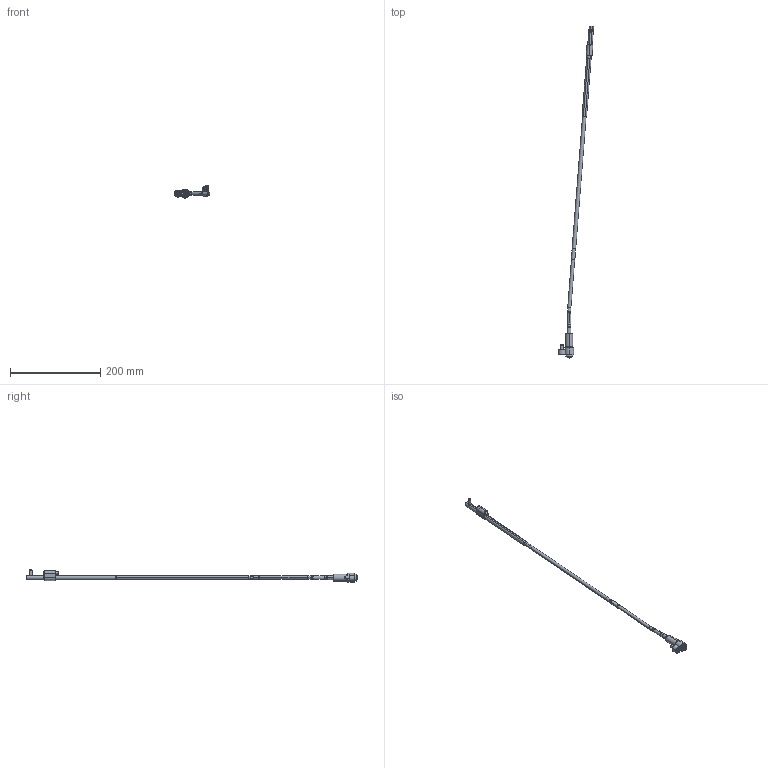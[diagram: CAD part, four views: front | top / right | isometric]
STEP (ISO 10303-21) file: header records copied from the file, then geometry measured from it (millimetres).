
FILE_DESCRIPTION (( 'STEP AP214' ), '1' );
FILE_NAME ('WL080100L-EJE 4,5°.STEP', '2021-03-19T15:24:55', ( '' ), ( '' ), 'SwSTEP 2.0', 'SolidWorks 2019', '' );
FILE_SCHEMA (( 'AUTOMOTIVE_DESIGN' ));
Length unit declared in the file: millimetre
Products named in the file (17): Web-WP08-1; Web-WL08-F00.SLDPRT; 1DIN912545_DIN 912 M5 x 50 --- 50C; 1DIN912616_DIN 912 M6 x 16 --- 16C; WL080100L-EJE 4,5°; Web-WL08XX-A7_ON-WL080100-4,5; WL080100-B_WL0800FF; Web-WL08-A1; 9DR2206-TOR; Web-WL08-A3; Web-WL08-F01; WL080100-E; WL080100-D; 3IMAN4X2-150_con sello; WL080100-C; WL080100-B1_WL0800FF-1; Web-WL08-A2
Assembly tree (16 placements, depth 3):
  WL080100L-EJE 4,5°
    Web-WP08-1
    Web-WL08XX-A7_ON-WL080100-4,5
    Web-WL08-A3
    Web-WL08-A2
    Web-WL08-A1
    WL080100-D
    WL080100-C
    WL080100-B_WL0800FF
      WL080100-B1_WL0800FF-1
      3IMAN4X2-150_con sello
    WL080100-E
    9DR2206-TOR
    Web-WL08-F00.SLDPRT
      Web-WL08-F01
      1DIN912545_DIN 912 M5 x 50 --- 50C
      1DIN912616_DIN 912 M6 x 16 --- 16C
Bounding box: 78.26 x 735.43 x 26.9 mm (x, y, z)
Volume: 57313.6 mm3; surface area: 33636.1 mm2
Topology: 15 solids, 15 shells, 424 faces, 888 edges, 516 vertices
Faces by surface type: plane 132, cylinder 128, cone 116, torus 48
Entity records: 13492 total; most frequent: DIRECTION 2218, CARTESIAN_POINT 2045, ORIENTED_EDGE 1756, AXIS2_PLACEMENT_3D 921, EDGE_CURVE 878, VERTEX_POINT 516, CIRCLE 476, EDGE_LOOP 468
